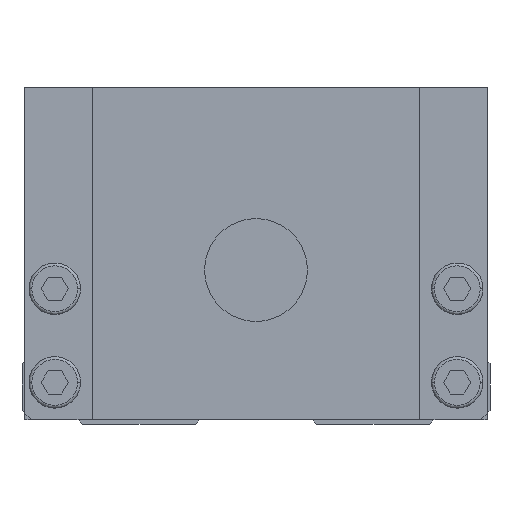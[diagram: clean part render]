
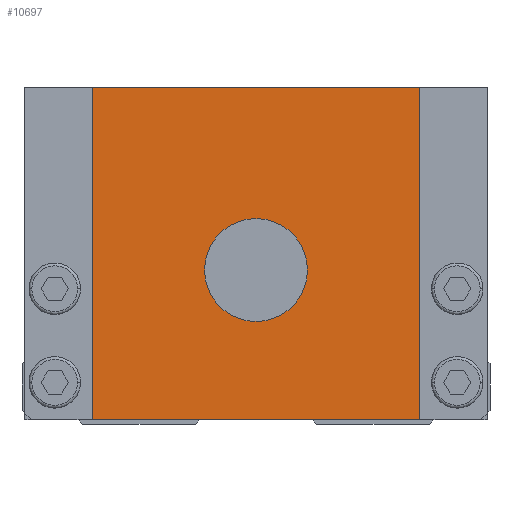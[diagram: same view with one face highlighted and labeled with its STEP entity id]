
A CAD part, front view. The second image highlights one B-rep face of the part: STEP entity #10697.
In plain terms, the highlighted planar face has unit normal (0, -1, 0).
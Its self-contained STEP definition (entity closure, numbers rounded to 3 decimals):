
#5037=VERTEX_POINT('',#14614);
#5371=EDGE_CURVE('',#6393,#12237,#14979,.T.);
#5777=VERTEX_POINT('',#15425);
#6007=EDGE_CURVE('',#12237,#6393,#15671,.T.);
#6393=VERTEX_POINT('',#16104);
#7575=EDGE_CURVE('',#5037,#12965,#17416,.T.);
#9581=EDGE_CURVE('',#12965,#5777,#19648,.T.);
#10697=ADVANCED_FACE('',(#20891,#20892),#20893,.F.);
#10799=EDGE_CURVE('',#5037,#12481,#21000,.T.);
#11963=EDGE_CURVE('',#5777,#12481,#22301,.T.);
#12237=VERTEX_POINT('',#22610);
#12481=VERTEX_POINT('',#22883);
#12965=VERTEX_POINT('',#23415);
#14614=CARTESIAN_POINT('',(-17.5,0.0,36.0));
#14979=CIRCLE('',#25813,5.5);
#15425=CARTESIAN_POINT('',(17.5,0.0,0.5));
#15671=CIRCLE('',#26802,5.5);
#16104=CARTESIAN_POINT('',(-5.5,0.0,16.5));
#17416=LINE('',#29393,#29394);
#19648=LINE('',#32593,#32594);
#20891=FACE_BOUND('',#34466,.T.);
#20892=FACE_OUTER_BOUND('',#34467,.T.);
#20893=PLANE('',#34468);
#21000=LINE('',#34616,#34617);
#22301=LINE('',#36505,#36506);
#22610=CARTESIAN_POINT('',(5.5,0.0,16.5));
#22883=CARTESIAN_POINT('',(-17.5,0.0,0.5));
#23415=CARTESIAN_POINT('',(17.5,0.0,36.0));
#25813=AXIS2_PLACEMENT_3D('',#41151,#41152,#41153);
#26802=AXIS2_PLACEMENT_3D('',#41877,#41878,#41879);
#29393=CARTESIAN_POINT('',(0.0,0.0,36.0));
#29394=VECTOR('',#43912,1.0);
#32593=CARTESIAN_POINT('',(17.5,0.0,18.25));
#32594=VECTOR('',#46520,1.0);
#34466=EDGE_LOOP('',(#47981,#47982));
#34467=EDGE_LOOP('',(#47983,#47984,#47985,#47986));
#34468=AXIS2_PLACEMENT_3D('',#47987,#47988,#47989);
#34616=CARTESIAN_POINT('',(-17.5,0.0,18.25));
#34617=VECTOR('',#48054,1.0);
#36505=CARTESIAN_POINT('',(0.0,0.0,0.5));
#36506=VECTOR('',#49516,1.0);
#41151=CARTESIAN_POINT('',(0.0,0.0,16.5));
#41152=DIRECTION('',(-0.0,1.0,0.0));
#41153=DIRECTION('',(1.0,0.0,0.0));
#41877=CARTESIAN_POINT('',(0.0,0.0,16.5));
#41878=DIRECTION('',(-0.0,1.0,0.0));
#41879=DIRECTION('',(1.0,0.0,0.0));
#43912=DIRECTION('',(1.0,0.0,0.0));
#46520=DIRECTION('',(0.0,0.0,-1.0));
#47981=ORIENTED_EDGE('',*,*,#6007,.T.);
#47982=ORIENTED_EDGE('',*,*,#5371,.T.);
#47983=ORIENTED_EDGE('',*,*,#10799,.T.);
#47984=ORIENTED_EDGE('',*,*,#11963,.F.);
#47985=ORIENTED_EDGE('',*,*,#9581,.F.);
#47986=ORIENTED_EDGE('',*,*,#7575,.F.);
#47987=CARTESIAN_POINT('',(0.0,0.0,18.25));
#47988=DIRECTION('',(0.0,1.0,0.0));
#47989=DIRECTION('',(0.0,0.0,1.0));
#48054=DIRECTION('',(0.0,0.0,-1.0));
#49516=DIRECTION('',(-1.0,0.0,0.0));
